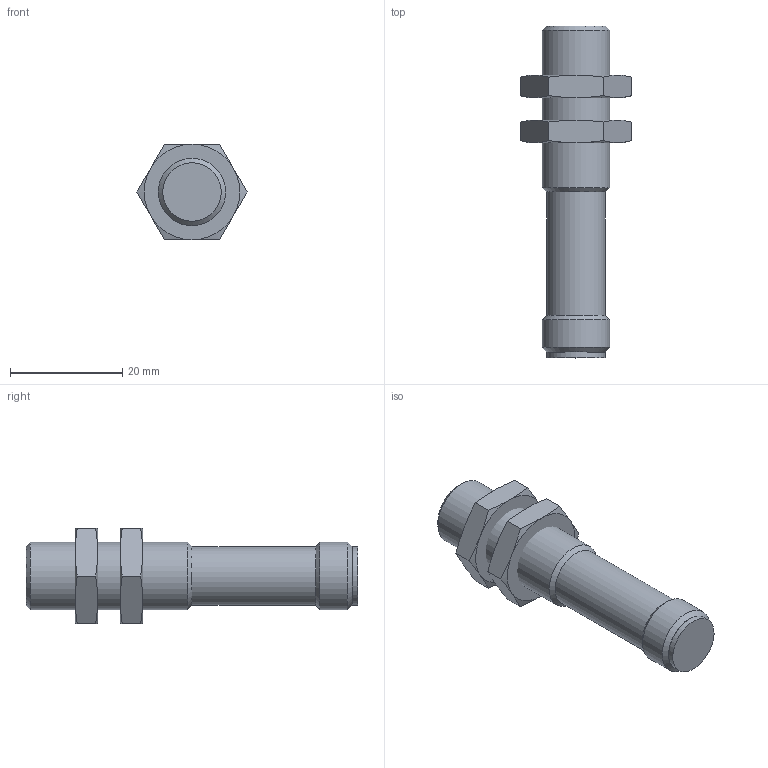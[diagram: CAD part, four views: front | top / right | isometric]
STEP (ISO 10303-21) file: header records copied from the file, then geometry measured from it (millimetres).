
FILE_DESCRIPTION(/* description */ (''),/* implementation_level */ '2;1');
FILE_NAME(/* name */ 'C:\#Vault-WorkDir\Konstruktions-Dokumente\MDT\Archiv\ARCHIV\153\3D-Model Kunde (DXF, IGS, SAT)\153-00345_FS_FE 12 RL.stp',/* time_stamp */ '2023-04-13T08:08:38+02:00',/* author */ ('SensoPart'),/* organization */ ('SensoPart'),/* preprocessor_version */ 'ST-DEVELOPER v18.1',/* originating_system */ 'Autodesk Inventor 2022',/* authorisation */ '');
FILE_SCHEMA (('AUTOMOTIVE_DESIGN { 1 0 10303 214 3 1 1 }'));
Length unit declared in the file: millimetre
Products named in the file (1): GH-ENG-0042625_Vereinfachen_1
Bounding box: 19.63 x 59.05 x 17 mm (x, y, z)
Volume: 8015.5 mm3; surface area: 3773.8 mm2
Topology: 3 solids, 3 shells, 51 faces, 102 edges, 59 vertices
Faces by surface type: cone 28, plane 19, cylinder 4
Full cylindrical faces by diameter (mm): 10.4 x1, 10.5 x1, 12 x2
Entity records: 1354 total; most frequent: CARTESIAN_POINT 309, ORIENTED_EDGE 204, DIRECTION 192, EDGE_CURVE 102, AXIS2_PLACEMENT_3D 86, VERTEX_POINT 58, STYLED_ITEM 54, EDGE_LOOP 52
